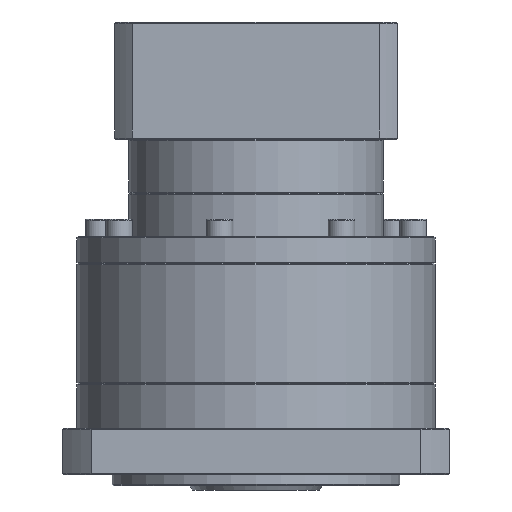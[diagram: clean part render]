
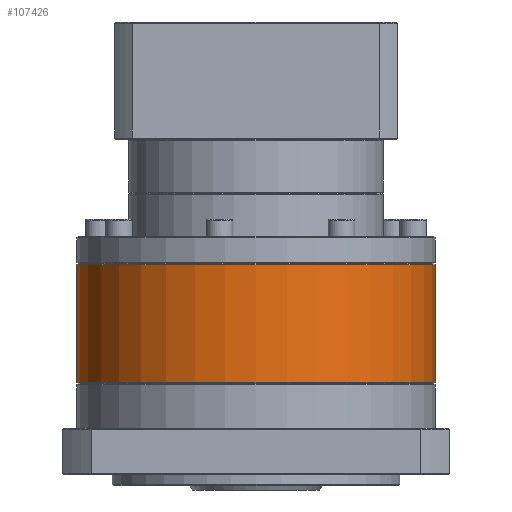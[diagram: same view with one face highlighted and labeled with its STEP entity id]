
A CAD part, front view. The second image highlights one B-rep face of the part: STEP entity #107426.
In plain terms, the highlighted cylindrical face has radius 81 mm (diameter 162 mm), a partial arc.
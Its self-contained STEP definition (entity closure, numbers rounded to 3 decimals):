
#38 = LINE ( 'NONE', #48120, #112304 ) ;
#641 = ORIENTED_EDGE ( 'NONE', *, *, #5559, .F. ) ;
#5559 = EDGE_CURVE ( 'NONE', #75520, #65178, #38, .T. ) ;
#7686 = DIRECTION ( 'NONE',  ( 1., 0., 0. ) ) ;
#15430 = AXIS2_PLACEMENT_3D ( 'NONE', #120547, #120987, #130040 ) ;
#16745 = DIRECTION ( 'NONE',  ( 0., 0., -1. ) ) ;
#19695 = CIRCLE ( 'NONE', #75129, 81. ) ;
#23199 = CARTESIAN_POINT ( 'NONE',  ( -186.592, 139.255, -130.348 ) ) ;
#24681 = AXIS2_PLACEMENT_3D ( 'NONE', #109230, #88723, #67243 ) ;
#27206 = CARTESIAN_POINT ( 'NONE',  ( -24.592, 139.255, -130.348 ) ) ;
#32226 = AXIS2_PLACEMENT_3D ( 'NONE', #66905, #119815, #108894 ) ;
#38634 = DIRECTION ( 'NONE',  ( 0., 0., -1. ) ) ;
#38679 = VERTEX_POINT ( 'NONE', #45197 ) ;
#42445 = ORIENTED_EDGE ( 'NONE', *, *, #77665, .T. ) ;
#45197 = CARTESIAN_POINT ( 'NONE',  ( -186.592, 139.255, -76.848 ) ) ;
#45547 = CYLINDRICAL_SURFACE ( 'NONE', #24681, 81. ) ;
#48093 = ORIENTED_EDGE ( 'NONE', *, *, #94680, .T. ) ;
#48120 = CARTESIAN_POINT ( 'NONE',  ( -24.592, 139.255, -76.348 ) ) ;
#50045 = ORIENTED_EDGE ( 'NONE', *, *, #93849, .T. ) ;
#50821 = VECTOR ( 'NONE', #58692, 1000. ) ;
#57358 = EDGE_CURVE ( 'NONE', #65178, #81590, #19695, .T. ) ;
#58692 = DIRECTION ( 'NONE',  ( 0., 0., -1. ) ) ;
#60598 = LINE ( 'NONE', #69632, #50821 ) ;
#65178 = VERTEX_POINT ( 'NONE', #27206 ) ;
#66905 = CARTESIAN_POINT ( 'NONE',  ( -105.592, 139.255, -76.848 ) ) ;
#67243 = DIRECTION ( 'NONE',  ( -1., 0., 0. ) ) ;
#69632 = CARTESIAN_POINT ( 'NONE',  ( -186.592, 139.255, -76.348 ) ) ;
#74166 = ORIENTED_EDGE ( 'NONE', *, *, #57358, .F. ) ;
#75129 = AXIS2_PLACEMENT_3D ( 'NONE', #79092, #38634, #7686 ) ;
#75520 = VERTEX_POINT ( 'NONE', #85804 ) ;
#77665 = EDGE_CURVE ( 'NONE', #38679, #81590, #60598, .T. ) ;
#79092 = CARTESIAN_POINT ( 'NONE',  ( -105.592, 139.255, -130.348 ) ) ;
#81590 = VERTEX_POINT ( 'NONE', #23199 ) ;
#83213 = FACE_OUTER_BOUND ( 'NONE', #112510, .T. ) ;
#85804 = CARTESIAN_POINT ( 'NONE',  ( -24.592, 139.255, -76.848 ) ) ;
#88723 = DIRECTION ( 'NONE',  ( 0., 0., -1. ) ) ;
#89371 = CIRCLE ( 'NONE', #15430, 81. ) ;
#93849 = EDGE_CURVE ( 'NONE', #75520, #128439, #89371, .T. ) ;
#94680 = EDGE_CURVE ( 'NONE', #128439, #38679, #105312, .T. ) ;
#105312 = CIRCLE ( 'NONE', #32226, 81. ) ;
#107426 = ADVANCED_FACE ( 'NONE', ( #83213 ), #45547, .T. ) ;
#108894 = DIRECTION ( 'NONE',  ( -1., 0., 0. ) ) ;
#109230 = CARTESIAN_POINT ( 'NONE',  ( -105.592, 139.255, -76.348 ) ) ;
#112304 = VECTOR ( 'NONE', #16745, 1000. ) ;
#112510 = EDGE_LOOP ( 'NONE', ( #641, #50045, #48093, #42445, #74166 ) ) ;
#119815 = DIRECTION ( 'NONE',  ( 0., 0., -1. ) ) ;
#120547 = CARTESIAN_POINT ( 'NONE',  ( -105.592, 139.255, -76.848 ) ) ;
#120987 = DIRECTION ( 'NONE',  ( 0., 0., -1. ) ) ;
#125000 = CARTESIAN_POINT ( 'NONE',  ( -105.592, 58.255, -76.848 ) ) ;
#128439 = VERTEX_POINT ( 'NONE', #125000 ) ;
#130040 = DIRECTION ( 'NONE',  ( -1., 0., 0. ) ) ;
